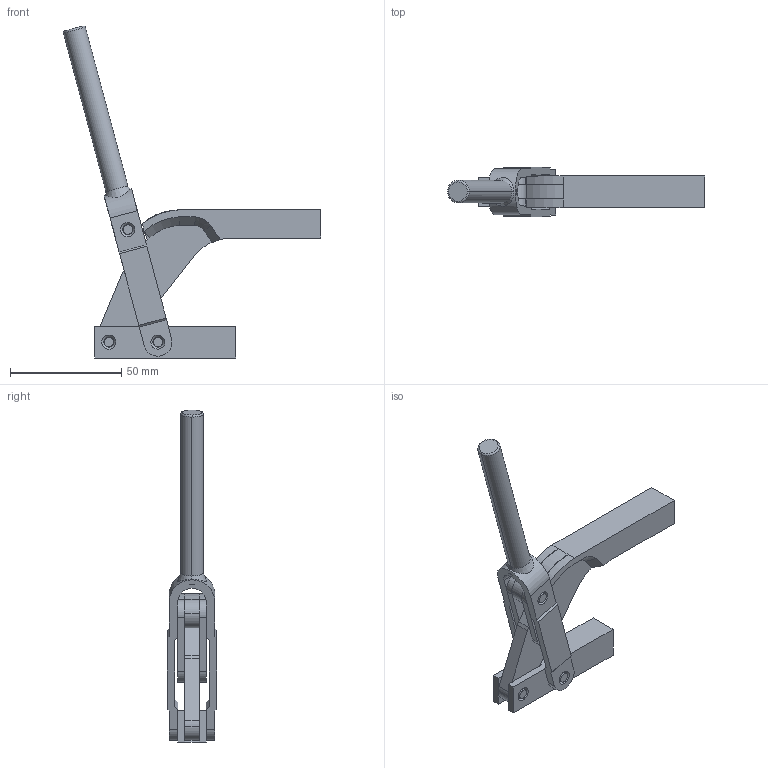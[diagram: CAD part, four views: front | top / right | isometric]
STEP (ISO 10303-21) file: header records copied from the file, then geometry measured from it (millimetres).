
FILE_DESCRIPTION( ( '' ), '1' );
FILE_NAME( 'C:\Documents and Settings\Richard Grenzke\My Documents\Wolverine Company Data\WOLVERINE CD 5_17_05\SOLIDS STEP\hold_down\cq1105.stp', ' ', ( '' ), ( '' ), 'ACIS Interop R16', 'Kubotek KeyCreator V5.5.1 (0454)', ' ' );
FILE_SCHEMA( ( 'CONFIG_CONTROL_DESIGN' ) );
Length unit declared in the file: inch
Products named in the file (10): 1; 2; 3; 4; 5; 6; 7; 8; 9; 10
Bounding box: 115.67 x 22.16 x 149.37 mm (x, y, z)
Volume: 46234.1 mm3; surface area: 23168 mm2
Topology: 9 solids, 9 shells, 168 faces, 448 edges, 300 vertices
Faces by surface type: plane 75, cylinder 61, cone 26, sphere 4, torus 2
Entity records: 5927 total; most frequent: CARTESIAN_POINT 1074, DIRECTION 980, ORIENTED_EDGE 896, EDGE_CURVE 448, AXIS2_PLACEMENT_3D 370, VERTEX_POINT 300, LINE 240, VECTOR 240
